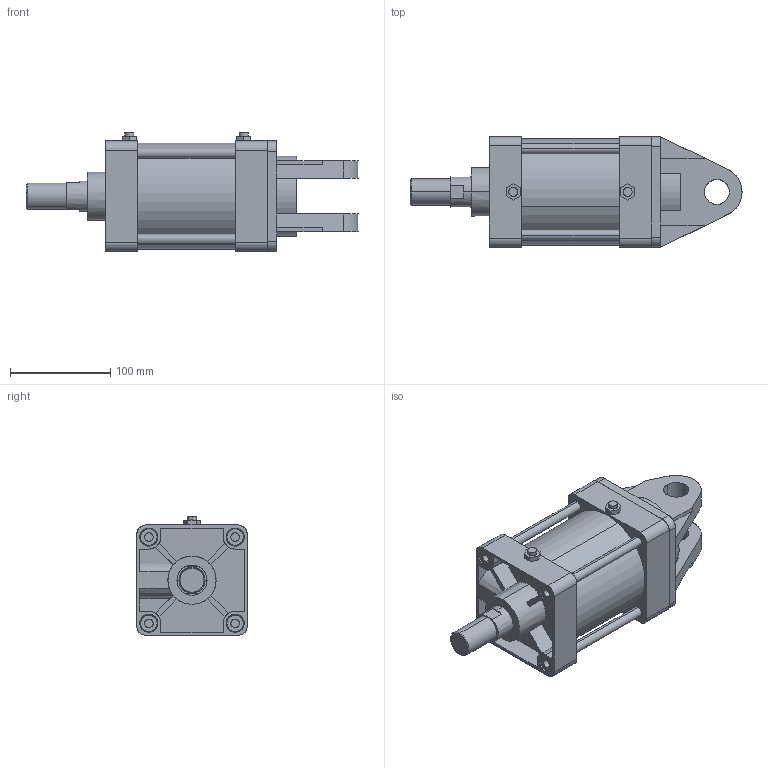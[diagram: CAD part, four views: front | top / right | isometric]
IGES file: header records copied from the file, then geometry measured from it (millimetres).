
Start section: SolidWorks IGES file using analytic representation for surfaces
Global section: file name: C:\Users\Toshiba\Desktop\KG2-100-50-W.IGS; native system: SolidWorks 2014; preprocessor: SolidWorks 2014; author: Toshiba; date: 160401.162444; units: millimetre
Bounding box: 331 x 110 x 118.3 mm (x, y, z)
Surface area: 259789.2 mm2 (no closed solid volume)
Topology: 0 solids, 0 shells, 356 faces, 5517 edges, 5513 vertices
Faces by surface type: bspline 192, revolution 164
